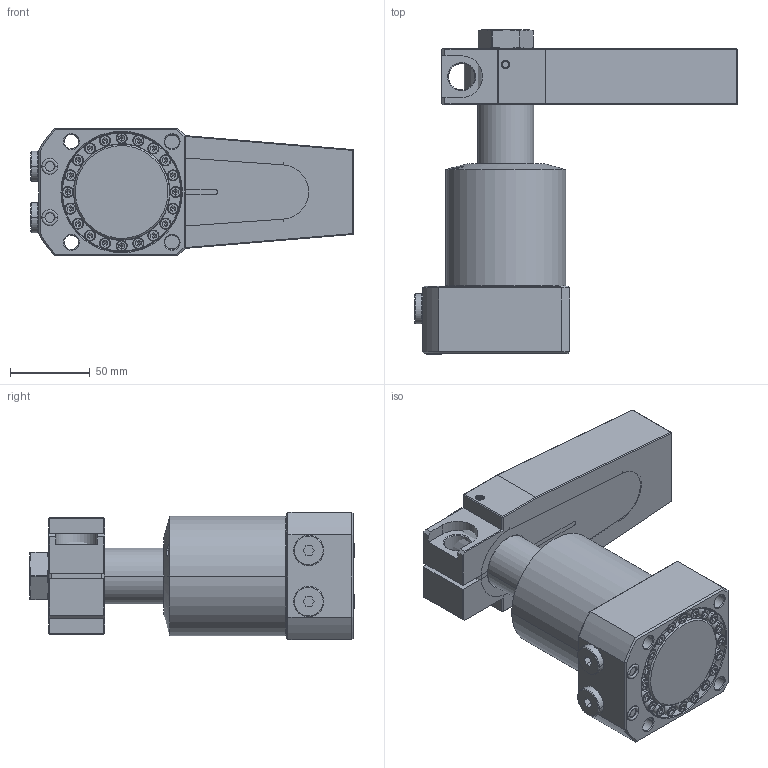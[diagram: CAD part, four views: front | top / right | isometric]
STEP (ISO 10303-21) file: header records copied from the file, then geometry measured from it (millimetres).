
FILE_DESCRIPTION((''),'2;1');
FILE_NAME('SIMP_GENERIC_SWING_CYD_75_ASM','2023-04-16T11:47:43',('Design 2'),(''),'CREO PARAMETRIC BY PTC INC, 2020053','CREO PARAMETRIC BY PTC INC, 2020053','');
FILE_SCHEMA(('CONFIG_CONTROL_DESIGN'));
Length unit declared in the file: millimetre
Products named in the file (16): BODY__; BODY_TOP_FLG___ASM; PISTON__S; PISTON_ASM___ASM; SWINGER_ARM__; SWINGER_ARM_ASM___ASM; CLAMP__; HEXAGON_NUT__; CLAMP_2ND_TYPE__; 1______; 2______; HALDER_SEALING-PLUG-228800_SSG__ASM; G-1-4_CLOSE_PLUG_; STATIC-O-RING-10X2SS_; ISHCS04X12_; SIMP_GENERIC_SWING_CYD_75_ASM
Assembly tree (36 placements, depth 3):
  SIMP_GENERIC_SWING_CYD_75_ASM
    BODY_TOP_FLG___ASM
      BODY__
    PISTON_ASM___ASM
      PISTON__S
    SWINGER_ARM_ASM___ASM
      SWINGER_ARM__
    CLAMP__
    HEXAGON_NUT__
    CLAMP_2ND_TYPE__
    HALDER_SEALING-PLUG-228800_SSG__ASM
      1______
      2______
    G-1-4_CLOSE_PLUG_  x2
    STATIC-O-RING-10X2SS_  x2
    ISHCS04X12_  x20
Bounding box: 202 x 203.25 x 80 mm (x, y, z)
Volume: 1175558.2 mm3; surface area: 186412.4 mm2
Topology: 32 solids, 32 shells, 1386 faces, 3140 edges, 1842 vertices
Faces by surface type: cylinder 467, plane 445, cone 340, torus 66, bspline 65, sphere 3
Entity records: 36875 total; most frequent: CARTESIAN_POINT 19455, ORIENTED_EDGE 3580, DIRECTION 3454, EDGE_CURVE 1790, AXIS2_PLACEMENT_3D 1320, VERTEX_POINT 1090, EDGE_LOOP 852, VECTOR 814
